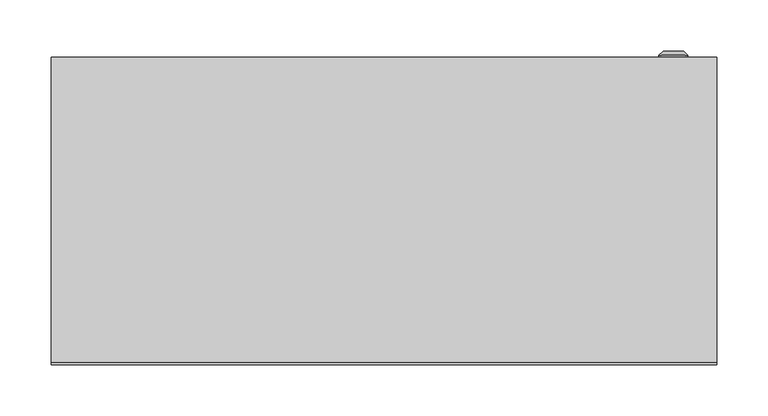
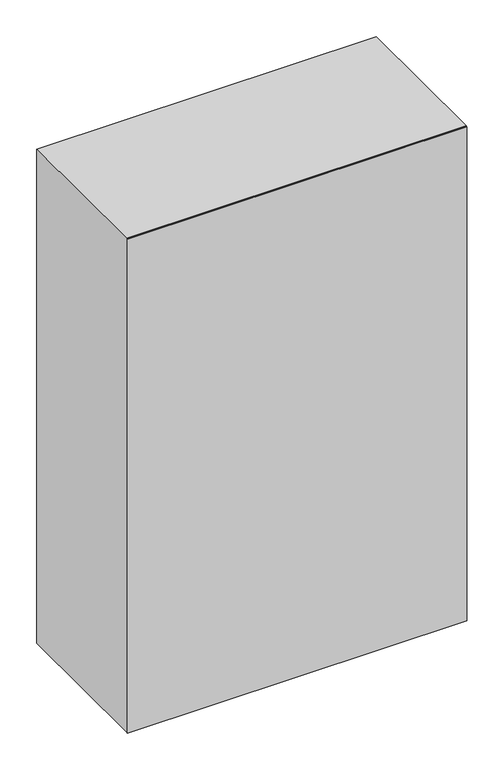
"""IFC4 building model written with IfcOpenShell, lengths in millimetres: proxy geometry, ЩМП : ЩМП-5-0_1000х650х300."""

from ifc_helpers import new_model, si_unit, frame, origin, origin_with_axes, place, context, project, spatial, polyline, circle_curve, outline, extrude, source, transform, mapped, element, save
from ifc_brep_helpers import plane_surface, cylinder_surface, revolved_surface, advanced_brep


def electrical_equipment_cb04a2b1(model_context):
    return source(origin(), model_context, "Body", "SolidModel", [
        advanced_brep(
        [(268.169873, 300.0, 500.0), (296.830127, 300.0, 500.0), (282.5, 300.0, 500.0), (268.169873, 302.366592, 500.0), (296.830127, 302.366592, 500.0), (272.5, 306.0, 500.0), (292.5, 306.0, 500.0), (280.6080471, 306.0, 500.0), (284.3919529, 306.0, 500.0), (280.6080471, 304.9822294, 500.0), (284.3919529, 304.9822294, 500.0), (282.5, 304.9822294, 500.0)],
        [
            (0, 1, circle_curve(frame((282.5, 300.0, 500.0), z_axis=(0.0, -1.0, 0.0), x_axis=(1.0, 0.0, 0.0)), 14.330127)),
            (1, 2),
            (2, 0),
            (1, 0, circle_curve(frame((282.5, 300.0, 500.0), z_axis=(0.0, -1.0, 0.0), x_axis=(1.0, 0.0, 0.0)), 14.330127)),
            (3, 4, circle_curve(frame((282.5, 302.366592, 500.0), z_axis=(0.0, -1.0, 0.0), x_axis=(1.0, 0.0, 0.0)), 14.330127)),
            (4, 1),
            (0, 3),
            (4, 3, circle_curve(frame((282.5, 302.366592, 500.0), z_axis=(0.0, -1.0, 0.0), x_axis=(1.0, 0.0, 0.0)), 14.330127)),
            (5, 6, circle_curve(frame((282.5, 306.0, 500.0), z_axis=(0.0, -1.0, 0.0), x_axis=(1.0, 0.0, 0.0)), 10.0)),
            (6, 4),
            (3, 5),
            (6, 5, circle_curve(frame((282.5, 306.0, 500.0), z_axis=(0.0, -1.0, 0.0), x_axis=(1.0, 0.0, 0.0)), 10.0)),
            (7, 8, circle_curve(frame((282.5, 306.0, 500.0), z_axis=(0.0, -1.0, 0.0), x_axis=(1.0, 0.0, 0.0)), 1.8919529)),
            (8, 6),
            (5, 7),
            (8, 7, circle_curve(frame((282.5, 306.0, 500.0), z_axis=(0.0, -1.0, 0.0), x_axis=(1.0, 0.0, 0.0)), 1.8919529)),
            (9, 10, circle_curve(frame((282.5, 304.9822294, 500.0), z_axis=(0.0, -1.0, 0.0), x_axis=(1.0, 0.0, 0.0)), 1.8919529)),
            (10, 8),
            (7, 9),
            (10, 9, circle_curve(frame((282.5, 304.9822294, 500.0), z_axis=(0.0, -1.0, 0.0), x_axis=(1.0, 0.0, 0.0)), 1.8919529)),
            (11, 10),
            (9, 11),
        ],
        [
            plane_surface(frame((282.5, 300.0, 500.0), z_axis=(0.0, -1.0, 0.0), x_axis=(1.0, 0.0, 0.0))),
            cylinder_surface(frame((282.5, 313.1348851, 500.0), z_axis=(0.0, 1.0, 0.0), x_axis=(1.0, 0.0, 0.0)), 14.330127),
            revolved_surface(polyline([(296.830127, 302.366592, 500.0), (292.5, 306.0, 500.0)]), (282.5, 313.1348851, 500.0), (0.0, 1.0, 0.0)),
            plane_surface(frame((282.5, 306.0, 500.0), z_axis=(0.0, 1.0, 0.0), x_axis=(1.0, 0.0, 0.0))),
            revolved_surface(polyline([(284.3919529, 306.0, 500.0), (284.3919529, 304.9822294, 500.0)]), (282.5, 313.1348851, 500.0), (0.0, 1.0, 0.0)),
            plane_surface(frame((282.5, 304.9822294, 500.0), z_axis=(0.0, 1.0, 0.0), x_axis=(1.0, 0.0, 0.0))),
        ],
        [
            (0, [[1, 2, 3]]),
            (0, [[4, -3, -2]]),
            (1, [[5, 6, -1, 7]]),
            (1, [[8, -7, -4, -6]]),
            (2, [[9, 10, -5, 11]]),
            (2, [[12, -11, -8, -10]]),
            (3, [[13, 14, -9, 15]]),
            (3, [[16, -15, -12, -14]]),
            (4, [[17, 18, -13, 19]]),
            (4, [[20, -19, -16, -18]]),
            (5, [[21, -17, 22]]),
            (5, [[-22, -20, -21]]),
        ],
    ),
        extrude(outline(polyline([(307.75, 275.0), (-307.75, 275.0), (-307.75, 300.0), (307.75, 300.0), (307.75, 275.0)])), frame((0.0, 0.0, 18.5), z_axis=(0.0, 0.0, 1.0), x_axis=(1.0, 0.0, 0.0)), (0.0, 0.0, 1.0), 963.0),
        extrude(outline(polyline([(1000.0, -325.0033905), (0.0, -325.0033905), (0.0, 324.9966095), (1000.0, 324.9966095), (1000.0, -325.0033905)]), holes=[polyline([(965.0, -292.5033905), (965.0, 292.4966095), (35.0, 292.4966095), (35.0, -292.5033905), (965.0, -292.5033905)])]), frame((0.0, 2.0, 0.0), z_axis=(0.0, 1.0, 0.0), x_axis=(0.0, 0.0, 1.0)), (0.0, 0.0, 1.0), 298.0),
        extrude(outline(polyline([(325.0, 0.0), (-325.0, 0.0), (-325.0, 2.0), (325.0, 2.0), (325.0, 0.0)])), origin_with_axes(), (0.0, 0.0, 1.0), 1000.0),
    ])


if __name__ == "__main__":
    model = new_model("IFC4")
    model_context = context("Model", 3, world=origin())
    ifc_project = project(units=[si_unit("LENGTHUNIT", "METRE", prefix="MILLI")], contexts=[model_context])
    site = spatial("IfcSite", under=ifc_project)
    building = spatial("IfcBuilding", under=site)
    placement = place(None, origin())
    electrical_equipment_shape = electrical_equipment_cb04a2b1(model_context)
    element("IfcBuildingElementProxy", 1, Name="ЩМП : ЩМП-5-0_1000х650х300", ObjectType="ЩМП : ЩМП-5-0_1000х650х300", at=placement, inside=building, context=model_context, shape_type="MappedRepresentation", body=[
        mapped(electrical_equipment_shape, transform((0.0, 0.0, 0.0), x_axis=(1.0, 0.0, 0.0), y_axis=(0.0, 1.0, 0.0), z_axis=(0.0, 0.0, 1.0))),
    ])
    save(model, "model.ifc")
